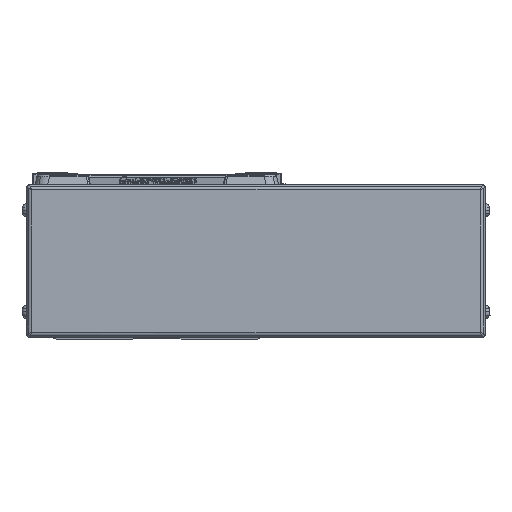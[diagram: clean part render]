
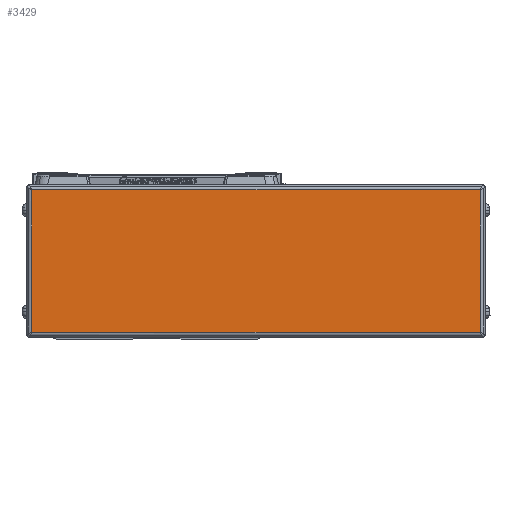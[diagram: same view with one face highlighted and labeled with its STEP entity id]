
A CAD part, left-side view. The second image highlights one B-rep face of the part: STEP entity #3429.
In plain terms, the highlighted planar face has unit normal (-1, 0, 0).
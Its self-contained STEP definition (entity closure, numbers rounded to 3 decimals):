
#3429=ADVANCED_FACE('',(#8561),#8562,.T.);
#8561=FACE_OUTER_BOUND('',#15936,.T.);
#8562=PLANE('',#15937);
#15936=EDGE_LOOP('',(#25773,#25774,#25775,#25776));
#15937=AXIS2_PLACEMENT_3D('',#25777,#25778,#25779);
#25773=ORIENTED_EDGE('',*,*,#45191,.F.);
#25774=ORIENTED_EDGE('',*,*,#45264,.F.);
#25775=ORIENTED_EDGE('',*,*,#45265,.F.);
#25776=ORIENTED_EDGE('',*,*,#45266,.F.);
#25777=CARTESIAN_POINT('',(-616.,-39.,0.));
#25778=DIRECTION('',(-1.0,0.,0.));
#25779=DIRECTION('',(0.,0.,1.0));
#45191=EDGE_CURVE('',#54749,#54751,#54752,.T.);
#45264=EDGE_CURVE('',#54874,#54749,#54875,.T.);
#45265=EDGE_CURVE('',#54876,#54874,#54877,.T.);
#45266=EDGE_CURVE('',#54751,#54876,#54878,.T.);
#54749=VERTEX_POINT('',#67852);
#54751=VERTEX_POINT('',#67854);
#54752=LINE('',#67855,#67856);
#54874=VERTEX_POINT('',#68016);
#54875=LINE('',#68017,#68018);
#54876=VERTEX_POINT('',#68019);
#54877=LINE('',#68020,#68021);
#54878=LINE('',#68022,#68023);
#67852=CARTESIAN_POINT('',(-616.,49.2,28.));
#67854=CARTESIAN_POINT('',(-616.,-127.2,28.));
#67855=CARTESIAN_POINT('',(-616.,-39.,28.));
#67856=VECTOR('',#82219,10.0);
#68016=CARTESIAN_POINT('',(-616.0,49.2,-28.));
#68017=CARTESIAN_POINT('',(-616.,49.2,0.));
#68018=VECTOR('',#82315,10.0);
#68019=CARTESIAN_POINT('',(-616.,-127.2,-28.));
#68020=CARTESIAN_POINT('',(-616.,-39.,-28.));
#68021=VECTOR('',#82316,10.0);
#68022=CARTESIAN_POINT('',(-616.,-127.2,0.));
#68023=VECTOR('',#82317,10.0);
#82219=DIRECTION('',(0.,-1.0,0.));
#82315=DIRECTION('',(0.,0.,1.0));
#82316=DIRECTION('',(0.,1.0,0.));
#82317=DIRECTION('',(0.,0.,-1.0));
